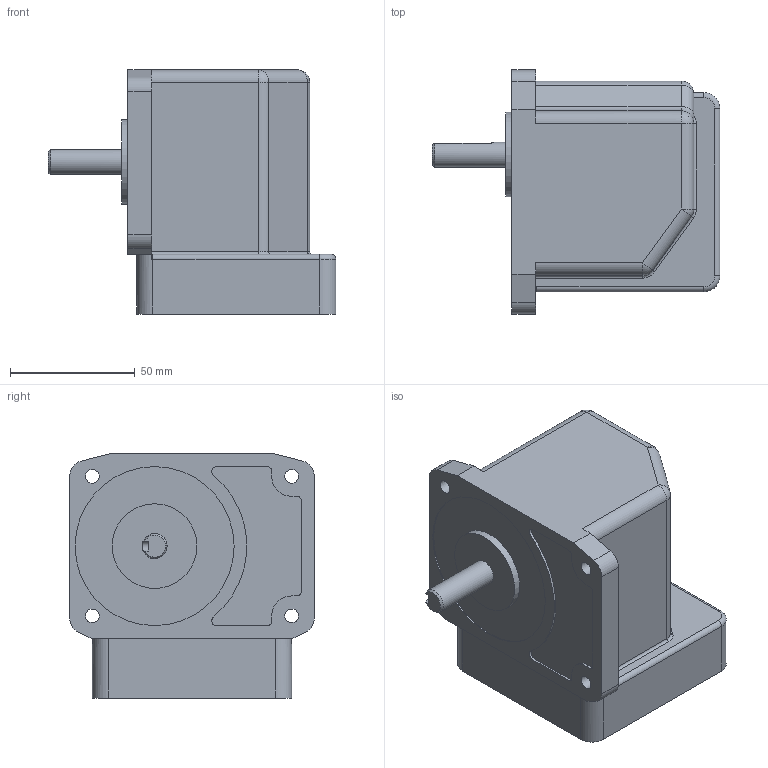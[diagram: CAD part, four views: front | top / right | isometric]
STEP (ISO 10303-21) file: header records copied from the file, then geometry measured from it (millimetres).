
FILE_DESCRIPTION((''),'2;1');
FILE_NAME('D:\작업\흐힠~\3D 모델링\SC8KA____1.stp','2015-03-31T12:09:44',('jy-jung'),(''),'Autodesk Inventor 2012','Autodesk Inventor 2012','');
FILE_SCHEMA(('AUTOMOTIVE_DESIGN { 1 0 10303 214 1 1 1 1 }'));
Length unit declared in the file: millimetre
Products named in the file (1): SC8KA_TYPE
Bounding box: 115.5 x 98 x 98 mm (x, y, z)
Volume: 514980.6 mm3; surface area: 49392.4 mm2
Topology: 1 solids, 1 shells, 113 faces, 276 edges, 174 vertices
Faces by surface type: cylinder 53, plane 45, torus 9, sphere 5, cone 1
Full cylindrical faces by diameter (mm): 5 x4, 5.5 x4, 10 x2, 34 x1, 63.8 x1, 73 x1
Entity records: 3298 total; most frequent: DIRECTION 598, CARTESIAN_POINT 584, ORIENTED_EDGE 518, EDGE_CURVE 259, AXIS2_PLACEMENT_3D 231, VERTEX_POINT 171, EDGE_LOOP 144, VECTOR 136
